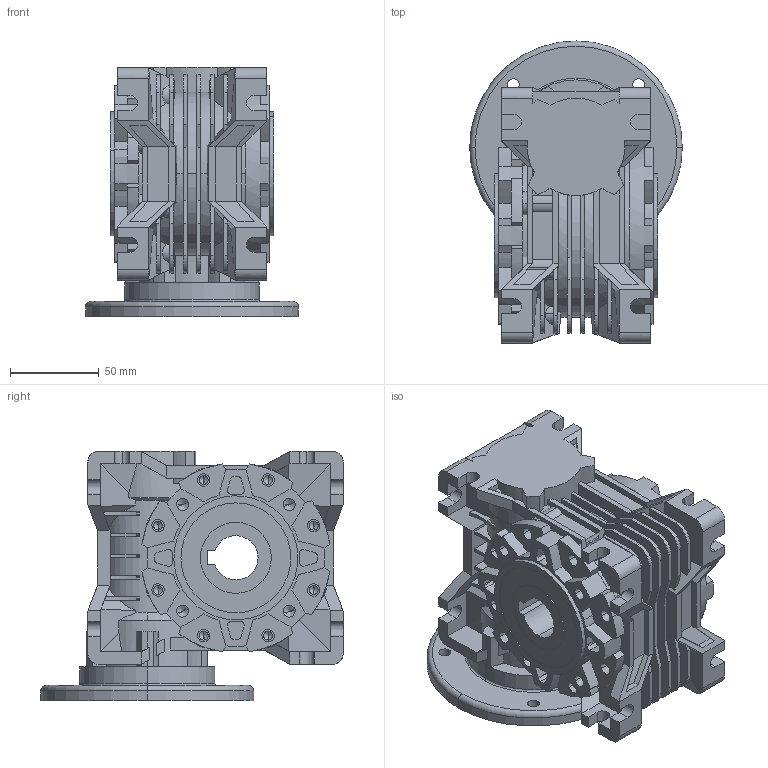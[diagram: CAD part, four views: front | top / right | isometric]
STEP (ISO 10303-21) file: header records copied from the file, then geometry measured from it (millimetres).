
FILE_DESCRIPTION (( 'STEP AP203' ), '1' );
FILE_NAME ('NMRV50-80B14 班.STEP', '2018-11-30T07:34:48', ( '微软中国' ), ( '微软中国' ), 'SwSTEP 2.0', 'SolidWorks 2016', '' );
FILE_SCHEMA (( 'CONFIG_CONTROL_DESIGN' ));
Length unit declared in the file: millimetre
Products named in the file (1): NMRV50-80B14 啤
Bounding box: 120 x 170.5 x 140.5 mm (x, y, z)
Volume: 601032.6 mm3; surface area: 253030.7 mm2
Topology: 1 solids, 12 shells, 1382 faces, 3740 edges, 2402 vertices
Faces by surface type: plane 743, cylinder 575, cone 58, torus 6
Entity records: 43837 total; most frequent: CARTESIAN_POINT 8572, DIRECTION 7591, ORIENTED_EDGE 7408, EDGE_CURVE 3704, AXIS2_PLACEMENT_3D 2743, VERTEX_POINT 2402, LINE 2105, VECTOR 2105
